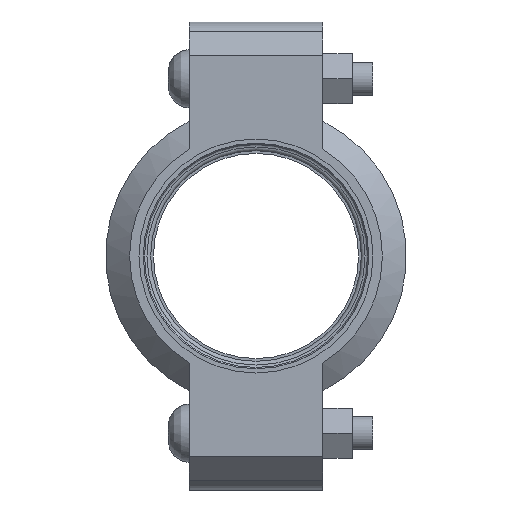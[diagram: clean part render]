
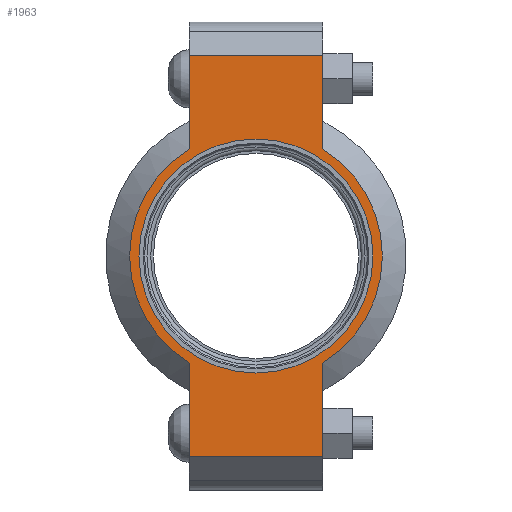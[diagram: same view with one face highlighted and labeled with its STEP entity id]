
A CAD part, left-side view. The second image highlights one B-rep face of the part: STEP entity #1963.
In plain terms, the highlighted planar face has unit normal (-1, 0, 0) as drawn and (0, 0, 1) by its records, which use the part's own axes.
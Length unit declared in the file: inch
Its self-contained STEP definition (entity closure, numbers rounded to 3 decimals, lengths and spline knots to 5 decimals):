
#152=LINE('',#3479,#249);
#160=LINE('',#3515,#257);
#167=LINE('',#3536,#264);
#176=LINE('',#3568,#273);
#177=LINE('',#3572,#274);
#178=LINE('',#3574,#275);
#249=VECTOR('',#2835,0.3937);
#257=VECTOR('',#2851,0.3937);
#264=VECTOR('',#2870,0.3937);
#273=VECTOR('',#2895,0.3937);
#274=VECTOR('',#2900,0.3937);
#275=VECTOR('',#2901,0.3937);
#331=FACE_BOUND('',#581,.T.);
#375=PLANE('',#2302);
#463=FACE_OUTER_BOUND('',#580,.T.);
#580=EDGE_LOOP('',(#1684,#1685,#1686,#1687,#1688,#1689,#1690,#1691));
#581=EDGE_LOOP('',(#1692));
#753=CIRCLE('',#2303,1.89);
#754=CIRCLE('',#2304,1.89);
#755=CIRCLE('',#2305,1.75);
#917=VERTEX_POINT('',#3476);
#918=VERTEX_POINT('',#3478);
#929=VERTEX_POINT('',#3510);
#930=VERTEX_POINT('',#3514);
#937=VERTEX_POINT('',#3533);
#938=VERTEX_POINT('',#3535);
#948=VERTEX_POINT('',#3571);
#949=VERTEX_POINT('',#3573);
#950=VERTEX_POINT('',#3576);
#1162=EDGE_CURVE('',#918,#917,#152,.T.);
#1176=EDGE_CURVE('',#930,#929,#160,.T.);
#1186=EDGE_CURVE('',#938,#937,#167,.T.);
#1201=EDGE_CURVE('',#930,#917,#176,.T.);
#1202=EDGE_CURVE('',#929,#938,#753,.T.);
#1203=EDGE_CURVE('',#948,#937,#177,.T.);
#1204=EDGE_CURVE('',#948,#949,#178,.T.);
#1205=EDGE_CURVE('',#949,#918,#754,.T.);
#1206=EDGE_CURVE('',#950,#950,#755,.T.);
#1684=ORIENTED_EDGE('',*,*,#1201,.F.);
#1685=ORIENTED_EDGE('',*,*,#1176,.T.);
#1686=ORIENTED_EDGE('',*,*,#1202,.T.);
#1687=ORIENTED_EDGE('',*,*,#1186,.T.);
#1688=ORIENTED_EDGE('',*,*,#1203,.F.);
#1689=ORIENTED_EDGE('',*,*,#1204,.T.);
#1690=ORIENTED_EDGE('',*,*,#1205,.T.);
#1691=ORIENTED_EDGE('',*,*,#1162,.T.);
#1692=ORIENTED_EDGE('',*,*,#1206,.T.);
#1963=ADVANCED_FACE('',(#463,#331),#375,.T.);
#2302=AXIS2_PLACEMENT_3D('',#3569,#2896,#2897);
#2303=AXIS2_PLACEMENT_3D('',#3570,#2898,#2899);
#2304=AXIS2_PLACEMENT_3D('',#3575,#2902,#2903);
#2305=AXIS2_PLACEMENT_3D('',#3577,#2904,#2905);
#2835=DIRECTION('',(1.,0.,0.));
#2851=DIRECTION('',(-1.,0.,0.));
#2870=DIRECTION('',(-1.,0.,0.));
#2895=DIRECTION('',(0.,-1.,0.));
#2896=DIRECTION('center_axis',(0.,0.,1.));
#2897=DIRECTION('ref_axis',(-1.,0.,0.));
#2898=DIRECTION('center_axis',(0.,0.,1.));
#2899=DIRECTION('ref_axis',(1.,0.,0.));
#2900=DIRECTION('',(0.,1.,0.));
#2901=DIRECTION('',(1.,0.,0.));
#2902=DIRECTION('center_axis',(0.,0.,1.));
#2903=DIRECTION('ref_axis',(1.,0.,0.));
#2904=DIRECTION('center_axis',(0.,0.,-1.));
#2905=DIRECTION('ref_axis',(1.,0.,0.));
#3476=CARTESIAN_POINT('',(3.,-1.,0.94));
#3478=CARTESIAN_POINT('',(1.60378,-1.,0.94));
#3479=CARTESIAN_POINT('',(3.5,-1.,0.94));
#3510=CARTESIAN_POINT('',(1.60378,1.,0.94));
#3514=CARTESIAN_POINT('',(3.,1.,0.94));
#3515=CARTESIAN_POINT('',(-3.5,1.,0.94));
#3533=CARTESIAN_POINT('',(-3.,1.,0.94));
#3535=CARTESIAN_POINT('',(-1.60378,1.,0.94));
#3536=CARTESIAN_POINT('',(-3.5,1.,0.94));
#3568=CARTESIAN_POINT('',(3.,-0.5,0.94));
#3569=CARTESIAN_POINT('Origin',(0.,0.,
0.94));
#3570=CARTESIAN_POINT('Origin',(0.,0.,0.94));
#3571=CARTESIAN_POINT('',(-3.,-1.,0.94));
#3572=CARTESIAN_POINT('',(-3.,0.5,0.94));
#3573=CARTESIAN_POINT('',(-1.60378,-1.,0.94));
#3574=CARTESIAN_POINT('',(3.5,-1.,0.94));
#3575=CARTESIAN_POINT('Origin',(0.,0.,0.94));
#3576=CARTESIAN_POINT('',(-1.75,0.,0.94));
#3577=CARTESIAN_POINT('Origin',(0.,0.,0.94));
